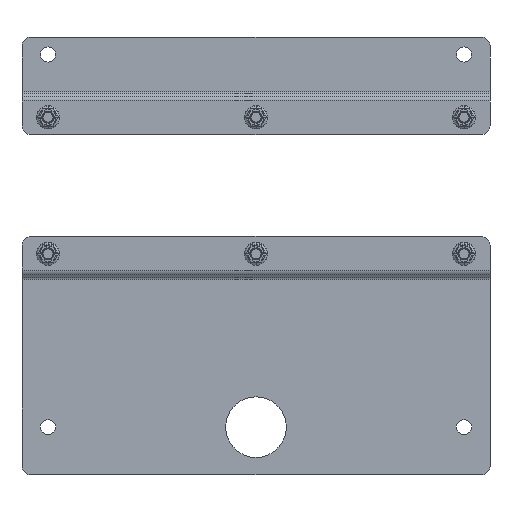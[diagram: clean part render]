
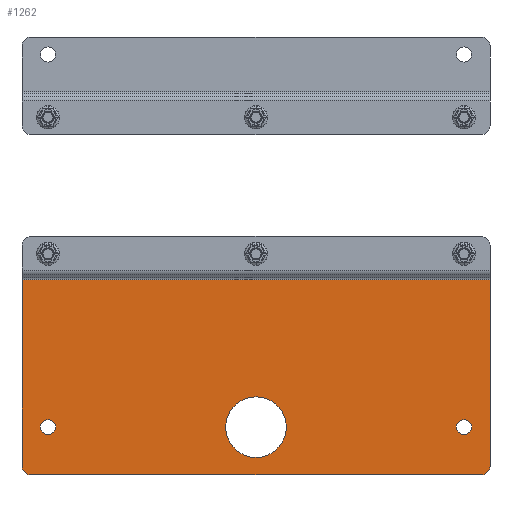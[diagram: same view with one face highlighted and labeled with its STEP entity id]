
A CAD part, top view. The second image highlights one B-rep face of the part: STEP entity #1262.
In plain terms, the highlighted planar face has unit normal (0, 0, 1).
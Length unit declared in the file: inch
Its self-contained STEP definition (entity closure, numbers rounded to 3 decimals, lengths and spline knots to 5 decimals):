
#509=CARTESIAN_POINT('',(0.,-4.98285,-0.125));
#510=DIRECTION('',(0.,0.,1.));
#511=DIRECTION('',(1.,0.,0.));
#512=AXIS2_PLACEMENT_3D('',#509,#510,#511);
#517=CARTESIAN_POINT('',(0.,-4.98285,-0.125));
#518=DIRECTION('',(0.,0.,1.));
#519=DIRECTION('',(-1.,0.,0.));
#520=AXIS2_PLACEMENT_3D('',#517,#518,#519);
#525=CARTESIAN_POINT('',(-6.,-4.98285,-0.125));
#526=DIRECTION('',(0.,0.,1.));
#527=DIRECTION('',(1.,0.,0.));
#528=AXIS2_PLACEMENT_3D('',#525,#526,#527);
#533=CARTESIAN_POINT('',(-6.,-4.98285,-0.125));
#534=DIRECTION('',(0.,0.,1.));
#535=DIRECTION('',(-1.,0.,0.));
#536=AXIS2_PLACEMENT_3D('',#533,#534,#535);
#541=CARTESIAN_POINT('',(6.,-4.98285,-0.125));
#542=DIRECTION('',(0.,0.,1.));
#543=DIRECTION('',(1.,0.,0.));
#544=AXIS2_PLACEMENT_3D('',#541,#542,#543);
#549=CARTESIAN_POINT('',(6.,-4.98285,-0.125));
#550=DIRECTION('',(0.,0.,1.));
#551=DIRECTION('',(-1.,0.,0.));
#552=AXIS2_PLACEMENT_3D('',#549,#550,#551);
#557=CARTESIAN_POINT('',(-6.5,-6.10785,-0.125));
#558=DIRECTION('',(0.,0.,1.));
#559=DIRECTION('',(-1.,0.,0.));
#560=AXIS2_PLACEMENT_3D('',#557,#558,#559);
#565=DIRECTION('',(0.,-1.,0.));
#566=VECTOR('',#565,5.38065);
#567=CARTESIAN_POINT('',(-6.75,-0.7272,-0.125));
#568=LINE('',#567,#566);
#572=DIRECTION('',(0.,1.,0.));
#573=VECTOR('',#572,5.38065);
#574=CARTESIAN_POINT('',(6.75,-6.10785,-0.125));
#575=LINE('',#574,#573);
#579=CARTESIAN_POINT('',(6.5,-6.10785,-0.125));
#580=DIRECTION('',(0.,0.,1.));
#581=DIRECTION('',(0.,-1.,0.));
#582=AXIS2_PLACEMENT_3D('',#579,#580,#581);
#587=DIRECTION('',(1.,0.,0.));
#588=VECTOR('',#587,13.);
#589=CARTESIAN_POINT('',(-6.5,-6.35785,-0.125));
#590=LINE('',#589,#588);
#671=DIRECTION('',(-1.,0.,0.));
#672=VECTOR('',#671,13.5);
#673=CARTESIAN_POINT('',(6.75,-0.7272,-0.125));
#674=LINE('',#673,#672);
#725=CARTESIAN_POINT('',(6.75,-0.7272,-0.125));
#726=CARTESIAN_POINT('',(-6.75,-0.7272,-0.125));
#727=VERTEX_POINT('',#725);
#728=VERTEX_POINT('',#726);
#749=CARTESIAN_POINT('',(0.875,-4.98285,-0.125));
#750=CARTESIAN_POINT('',(-0.875,-4.98285,-0.125));
#751=VERTEX_POINT('',#749);
#752=VERTEX_POINT('',#750);
#753=CARTESIAN_POINT('',(-5.78125,-4.98285,-0.125));
#754=CARTESIAN_POINT('',(-6.21875,-4.98285,-0.125));
#755=VERTEX_POINT('',#753);
#756=VERTEX_POINT('',#754);
#757=CARTESIAN_POINT('',(6.21875,-4.98285,-0.125));
#758=CARTESIAN_POINT('',(5.78125,-4.98285,-0.125));
#759=VERTEX_POINT('',#757);
#760=VERTEX_POINT('',#758);
#777=CARTESIAN_POINT('',(-6.75,-6.10785,-0.125));
#778=VERTEX_POINT('',#777);
#779=CARTESIAN_POINT('',(-6.5,-6.35785,-0.125));
#780=VERTEX_POINT('',#779);
#793=CARTESIAN_POINT('',(6.5,-6.35785,-0.125));
#794=VERTEX_POINT('',#793);
#795=CARTESIAN_POINT('',(6.75,-6.10785,-0.125));
#796=VERTEX_POINT('',#795);
#1226=CARTESIAN_POINT('',(-6.75,-0.66288,-0.125));
#1227=DIRECTION('',(0.,0.,1.));
#1228=DIRECTION('',(-1.,0.,0.));
#1229=AXIS2_PLACEMENT_3D('',#1226,#1227,#1228);
#1230=PLANE('',#1229);
#1232=ORIENTED_EDGE('',*,*,#1231,.F.);
#1234=ORIENTED_EDGE('',*,*,#1233,.F.);
#1236=ORIENTED_EDGE('',*,*,#1235,.F.);
#1238=ORIENTED_EDGE('',*,*,#1237,.F.);
#1240=ORIENTED_EDGE('',*,*,#1239,.F.);
#1242=ORIENTED_EDGE('',*,*,#1241,.F.);
#1243=EDGE_LOOP('',(#1232,#1234,#1236,#1238,#1240,#1242));
#1244=FACE_OUTER_BOUND('',#1243,.F.);
#1246=ORIENTED_EDGE('',*,*,#1245,.T.);
#1248=ORIENTED_EDGE('',*,*,#1247,.T.);
#1249=EDGE_LOOP('',(#1246,#1248));
#1250=FACE_BOUND('',#1249,.F.);
#1251=ORIENTED_EDGE('',*,*,#1216,.T.);
#1253=ORIENTED_EDGE('',*,*,#1252,.T.);
#1254=EDGE_LOOP('',(#1251,#1253));
#1255=FACE_BOUND('',#1254,.F.);
#1257=ORIENTED_EDGE('',*,*,#1256,.T.);
#1259=ORIENTED_EDGE('',*,*,#1258,.T.);
#1260=EDGE_LOOP('',(#1257,#1259));
#1261=FACE_BOUND('',#1260,.F.);
#513=CIRCLE('',#512,0.875);
#521=CIRCLE('',#520,0.875);
#529=CIRCLE('',#528,0.21875);
#537=CIRCLE('',#536,0.21875);
#545=CIRCLE('',#544,0.21875);
#553=CIRCLE('',#552,0.21875);
#561=CIRCLE('',#560,0.25);
#583=CIRCLE('',#582,0.25);
#1216=EDGE_CURVE('',#759,#760,#545,.T.);
#1231=EDGE_CURVE('',#778,#780,#561,.T.);
#1233=EDGE_CURVE('',#728,#778,#568,.T.);
#1235=EDGE_CURVE('',#727,#728,#674,.T.);
#1237=EDGE_CURVE('',#796,#727,#575,.T.);
#1239=EDGE_CURVE('',#794,#796,#583,.T.);
#1241=EDGE_CURVE('',#780,#794,#590,.T.);
#1245=EDGE_CURVE('',#755,#756,#529,.T.);
#1247=EDGE_CURVE('',#756,#755,#537,.T.);
#1252=EDGE_CURVE('',#760,#759,#553,.T.);
#1256=EDGE_CURVE('',#751,#752,#513,.T.);
#1258=EDGE_CURVE('',#752,#751,#521,.T.);
#1262=ADVANCED_FACE('',(#1244,#1250,#1255,#1261),#1230,.T.);
